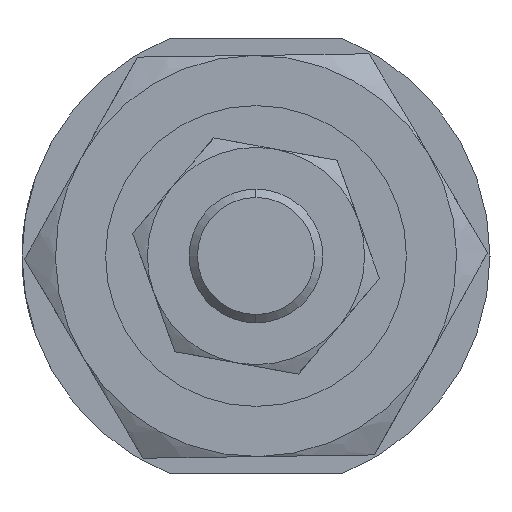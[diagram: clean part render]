
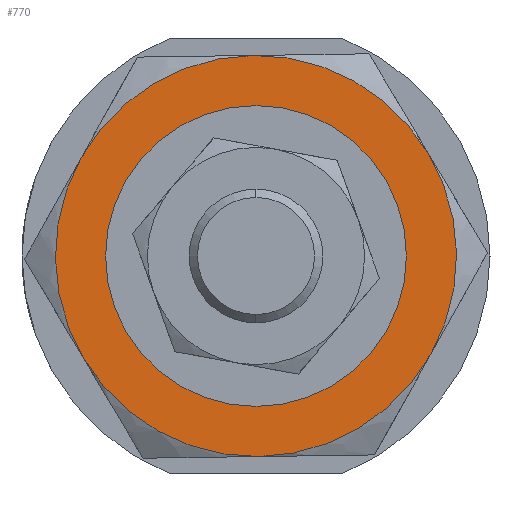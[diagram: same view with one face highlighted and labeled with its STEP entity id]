
A CAD part, left-side view. The second image highlights one B-rep face of the part: STEP entity #770.
In plain terms, the highlighted planar face has unit normal (-1, 0, 0) as drawn and (0, 0, -1) by its records, which use the part's own axes.
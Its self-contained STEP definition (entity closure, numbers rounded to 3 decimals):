
#30 = CARTESIAN_POINT ( 'NONE',  ( 12., 0., -4. ) ) ;
#67 = CIRCLE ( 'NONE', #81, 12. ) ;
#81 = AXIS2_PLACEMENT_3D ( 'NONE', #2297, #1560, #1596 ) ;
#138 = AXIS2_PLACEMENT_3D ( 'NONE', #1441, #1647, #672 ) ;
#183 = CARTESIAN_POINT ( 'NONE',  ( 0., 0., -4. ) ) ;
#292 = AXIS2_PLACEMENT_3D ( 'NONE', #2752, #2497, #2488 ) ;
#386 = CIRCLE ( 'NONE', #2265, 12. ) ;
#440 = CARTESIAN_POINT ( 'NONE',  ( 8.25, 0., -4. ) ) ;
#449 = ORIENTED_EDGE ( 'NONE', *, *, #1340, .F. ) ;
#453 = CARTESIAN_POINT ( 'NONE',  ( 0., 0., -4. ) ) ;
#467 = CARTESIAN_POINT ( 'NONE',  ( 0., 0., -4. ) ) ;
#510 = AXIS2_PLACEMENT_3D ( 'NONE', #453, #2590, #2843 ) ;
#527 = VERTEX_POINT ( 'NONE', #901 ) ;
#603 = VERTEX_POINT ( 'NONE', #1350 ) ;
#672 = DIRECTION ( 'NONE',  ( 1., 0., 0. ) ) ;
#710 = ORIENTED_EDGE ( 'NONE', *, *, #2687, .T. ) ;
#738 = VERTEX_POINT ( 'NONE', #1348 ) ;
#740 = EDGE_CURVE ( 'NONE', #893, #603, #1669, .T. ) ;
#770 = ADVANCED_FACE ( 'NONE', ( #1818, #1072 ), #1336, .F. ) ;
#796 = CARTESIAN_POINT ( 'NONE',  ( -6., 10.392, -4. ) ) ;
#893 = VERTEX_POINT ( 'NONE', #1607 ) ;
#895 = DIRECTION ( 'NONE',  ( 1., 0., 0. ) ) ;
#901 = CARTESIAN_POINT ( 'NONE',  ( 6., 10.392, -4. ) ) ;
#1049 = ORIENTED_EDGE ( 'NONE', *, *, #2427, .F. ) ;
#1060 = DIRECTION ( 'NONE',  ( 1., 0., 0. ) ) ;
#1072 = FACE_OUTER_BOUND ( 'NONE', #1962, .T. ) ;
#1137 = ORIENTED_EDGE ( 'NONE', *, *, #2749, .F. ) ;
#1172 = DIRECTION ( 'NONE',  ( 0., 0., 1. ) ) ;
#1183 = CIRCLE ( 'NONE', #1419, 12. ) ;
#1186 = EDGE_CURVE ( 'NONE', #1313, #738, #386, .T. ) ;
#1191 = DIRECTION ( 'NONE',  ( 0., 0., 1. ) ) ;
#1213 = AXIS2_PLACEMENT_3D ( 'NONE', #3020, #1869, #895 ) ;
#1239 = ORIENTED_EDGE ( 'NONE', *, *, #1186, .F. ) ;
#1313 = VERTEX_POINT ( 'NONE', #796 ) ;
#1336 = PLANE ( 'NONE',  #1853 ) ;
#1340 = EDGE_CURVE ( 'NONE', #2867, #527, #1183, .T. ) ;
#1348 = CARTESIAN_POINT ( 'NONE',  ( -12., 0., -4. ) ) ;
#1350 = CARTESIAN_POINT ( 'NONE',  ( 6., -10.392, -4. ) ) ;
#1419 = AXIS2_PLACEMENT_3D ( 'NONE', #183, #1172, #1060 ) ;
#1441 = CARTESIAN_POINT ( 'NONE',  ( 0., 0., -4. ) ) ;
#1493 = EDGE_CURVE ( 'NONE', #1549, #1641, #1916, .T. ) ;
#1549 = VERTEX_POINT ( 'NONE', #2577 ) ;
#1560 = DIRECTION ( 'NONE',  ( 0., 0., 1. ) ) ;
#1596 = DIRECTION ( 'NONE',  ( 1., 0., 0. ) ) ;
#1607 = CARTESIAN_POINT ( 'NONE',  ( -6., -10.392, -4. ) ) ;
#1641 = VERTEX_POINT ( 'NONE', #440 ) ;
#1647 = DIRECTION ( 'NONE',  ( 0., 0., 1. ) ) ;
#1669 = CIRCLE ( 'NONE', #292, 12. ) ;
#1670 = DIRECTION ( 'NONE',  ( 1., 0., 0. ) ) ;
#1692 = EDGE_LOOP ( 'NONE', ( #710, #1841 ) ) ;
#1818 = FACE_BOUND ( 'NONE', #1692, .T. ) ;
#1841 = ORIENTED_EDGE ( 'NONE', *, *, #1493, .T. ) ;
#1847 = CIRCLE ( 'NONE', #510, 12. ) ;
#1853 = AXIS2_PLACEMENT_3D ( 'NONE', #2732, #2300, #2976 ) ;
#1869 = DIRECTION ( 'NONE',  ( 0., 0., 1. ) ) ;
#1916 = CIRCLE ( 'NONE', #1213, 8.25 ) ;
#1962 = EDGE_LOOP ( 'NONE', ( #449, #1137, #2345, #1049, #1239, #2832 ) ) ;
#2137 = CIRCLE ( 'NONE', #3006, 12. ) ;
#2158 = EDGE_CURVE ( 'NONE', #527, #1313, #2137, .T. ) ;
#2265 = AXIS2_PLACEMENT_3D ( 'NONE', #2708, #2930, #2454 ) ;
#2297 = CARTESIAN_POINT ( 'NONE',  ( 0., 0., -4. ) ) ;
#2300 = DIRECTION ( 'NONE',  ( 0., 0., 1. ) ) ;
#2345 = ORIENTED_EDGE ( 'NONE', *, *, #740, .F. ) ;
#2427 = EDGE_CURVE ( 'NONE', #738, #893, #67, .T. ) ;
#2454 = DIRECTION ( 'NONE',  ( 1., 0., 0. ) ) ;
#2478 = CIRCLE ( 'NONE', #138, 8.25 ) ;
#2488 = DIRECTION ( 'NONE',  ( 1., 0., 0. ) ) ;
#2497 = DIRECTION ( 'NONE',  ( 0., 0., 1. ) ) ;
#2577 = CARTESIAN_POINT ( 'NONE',  ( -8.25, 0., -4. ) ) ;
#2590 = DIRECTION ( 'NONE',  ( 0., 0., 1. ) ) ;
#2687 = EDGE_CURVE ( 'NONE', #1641, #1549, #2478, .T. ) ;
#2708 = CARTESIAN_POINT ( 'NONE',  ( 0., 0., -4. ) ) ;
#2732 = CARTESIAN_POINT ( 'NONE',  ( 0., 0., -4. ) ) ;
#2749 = EDGE_CURVE ( 'NONE', #603, #2867, #1847, .T. ) ;
#2752 = CARTESIAN_POINT ( 'NONE',  ( 0., 0., -4. ) ) ;
#2832 = ORIENTED_EDGE ( 'NONE', *, *, #2158, .F. ) ;
#2843 = DIRECTION ( 'NONE',  ( 1., 0., 0. ) ) ;
#2867 = VERTEX_POINT ( 'NONE', #30 ) ;
#2930 = DIRECTION ( 'NONE',  ( 0., 0., 1. ) ) ;
#2976 = DIRECTION ( 'NONE',  ( 1., 0., 0. ) ) ;
#3006 = AXIS2_PLACEMENT_3D ( 'NONE', #467, #1191, #1670 ) ;
#3020 = CARTESIAN_POINT ( 'NONE',  ( 0., 0., -4. ) ) ;
